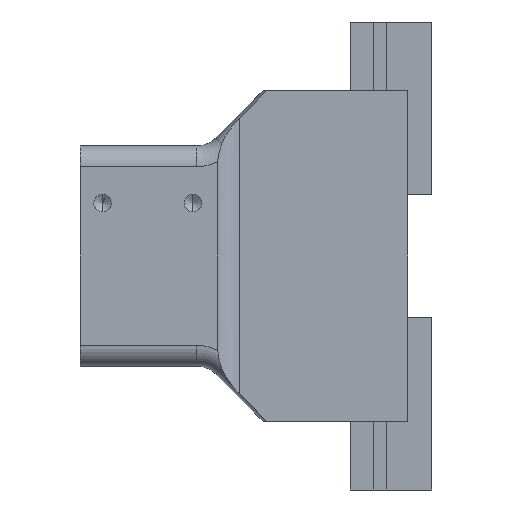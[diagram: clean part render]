
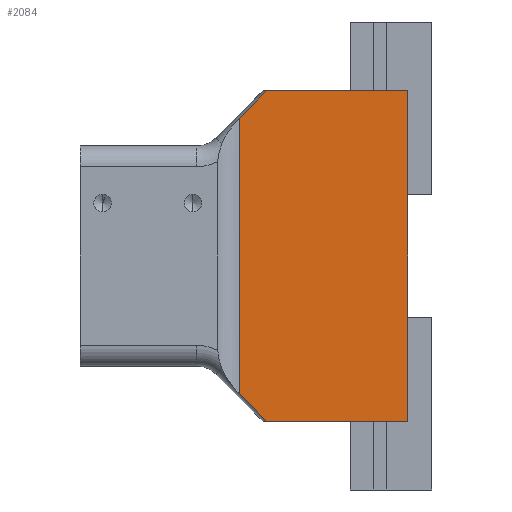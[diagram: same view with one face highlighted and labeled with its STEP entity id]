
A CAD part, left-side view. The second image highlights one B-rep face of the part: STEP entity #2084.
In plain terms, the highlighted planar face has unit normal (-1, 0, 0).
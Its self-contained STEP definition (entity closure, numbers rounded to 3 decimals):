
#141 = CARTESIAN_POINT ( 'NONE',  ( -13.487, -37.744, 38.1 ) ) ;
#280 = CARTESIAN_POINT ( 'NONE',  ( -13.487, -5.324, 38.1 ) ) ;
#357 = CARTESIAN_POINT ( 'NONE',  ( -13.487, 16.21, -16.566 ) ) ;
#542 = VECTOR ( 'NONE', #5759, 1000. ) ;
#618 = VECTOR ( 'NONE', #4500, 1000. ) ;
#694 = ORIENTED_EDGE ( 'NONE', *, *, #5532, .T. ) ;
#822 = CARTESIAN_POINT ( 'NONE',  ( -13.487, 54.31, -21.534 ) ) ;
#866 = VECTOR ( 'NONE', #3315, 1000. ) ;
#902 = ORIENTED_EDGE ( 'NONE', *, *, #1724, .F. ) ;
#1081 = LINE ( 'NONE', #3872, #6213 ) ;
#1210 = CARTESIAN_POINT ( 'NONE',  ( -13.487, 1.032, -31.743 ) ) ;
#1275 = DIRECTION ( 'NONE',  ( 1., 0., 0. ) ) ;
#1389 = DIRECTION ( 'NONE',  ( 0., -1., 0. ) ) ;
#1564 = VERTEX_POINT ( 'NONE', #280 ) ;
#1724 = EDGE_CURVE ( 'NONE', #1564, #4442, #3790, .T. ) ;
#1732 = PLANE ( 'NONE',  #4804 ) ;
#1888 = ORIENTED_EDGE ( 'NONE', *, *, #2853, .T. ) ;
#1890 = ORIENTED_EDGE ( 'NONE', *, *, #3562, .T. ) ;
#2058 = LINE ( 'NONE', #5985, #618 ) ;
#2078 = FACE_OUTER_BOUND ( 'NONE', #4256, .T. ) ;
#2084 = ADVANCED_FACE ( 'NONE', ( #2078 ), #1732, .F. ) ;
#2396 = DIRECTION ( 'NONE',  ( 0., 0., -1. ) ) ;
#2519 = CARTESIAN_POINT ( 'NONE',  ( -13.487, -37.744, -38.1 ) ) ;
#2582 = VERTEX_POINT ( 'NONE', #4058 ) ;
#2728 = CARTESIAN_POINT ( 'NONE',  ( -13.487, 5.994, 38.1 ) ) ;
#2853 = EDGE_CURVE ( 'NONE', #3770, #2582, #4341, .T. ) ;
#2967 = EDGE_CURVE ( 'NONE', #5470, #3770, #1081, .T. ) ;
#2986 = VECTOR ( 'NONE', #3271, 1000. ) ;
#3125 = VERTEX_POINT ( 'NONE', #2519 ) ;
#3143 = LINE ( 'NONE', #822, #542 ) ;
#3271 = DIRECTION ( 'NONE',  ( 0., -0.707, -0.707 ) ) ;
#3315 = DIRECTION ( 'NONE',  ( 0., -1., 0. ) ) ;
#3472 = LINE ( 'NONE', #4828, #866 ) ;
#3562 = EDGE_CURVE ( 'NONE', #3125, #4442, #2058, .T. ) ;
#3770 = VERTEX_POINT ( 'NONE', #1210 ) ;
#3790 = LINE ( 'NONE', #4364, #5285 ) ;
#3872 = CARTESIAN_POINT ( 'NONE',  ( -13.487, 1.032, 38.1 ) ) ;
#3897 = ORIENTED_EDGE ( 'NONE', *, *, #2967, .T. ) ;
#3912 = EDGE_CURVE ( 'NONE', #2582, #3125, #3472, .T. ) ;
#4058 = CARTESIAN_POINT ( 'NONE',  ( -13.487, -5.324, -38.1 ) ) ;
#4256 = EDGE_LOOP ( 'NONE', ( #3897, #1888, #4711, #1890, #902, #694 ) ) ;
#4341 = LINE ( 'NONE', #357, #2986 ) ;
#4364 = CARTESIAN_POINT ( 'NONE',  ( -13.487, 5.994, 38.1 ) ) ;
#4442 = VERTEX_POINT ( 'NONE', #141 ) ;
#4500 = DIRECTION ( 'NONE',  ( 0., 0., 1. ) ) ;
#4711 = ORIENTED_EDGE ( 'NONE', *, *, #3912, .T. ) ;
#4749 = DIRECTION ( 'NONE',  ( 0., 0., -1. ) ) ;
#4804 = AXIS2_PLACEMENT_3D ( 'NONE', #2728, #1275, #4749 ) ;
#4828 = CARTESIAN_POINT ( 'NONE',  ( -13.487, 5.994, -38.1 ) ) ;
#5285 = VECTOR ( 'NONE', #1389, 1000. ) ;
#5470 = VERTEX_POINT ( 'NONE', #6264 ) ;
#5532 = EDGE_CURVE ( 'NONE', #1564, #5470, #3143, .T. ) ;
#5759 = DIRECTION ( 'NONE',  ( 0., 0.707, -0.707 ) ) ;
#5985 = CARTESIAN_POINT ( 'NONE',  ( -13.487, -37.744, 38.1 ) ) ;
#6213 = VECTOR ( 'NONE', #2396, 1000. ) ;
#6264 = CARTESIAN_POINT ( 'NONE',  ( -13.487, 1.032, 31.743 ) ) ;
